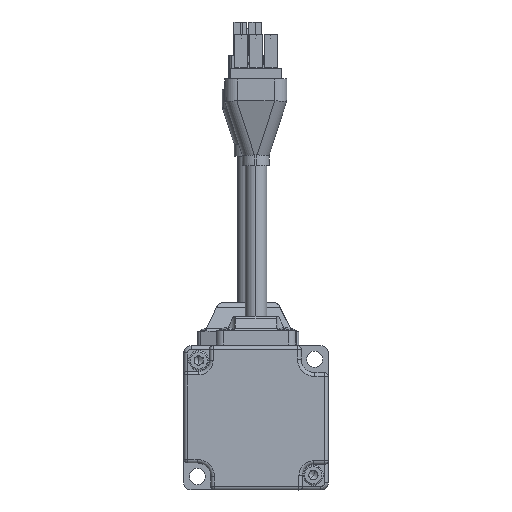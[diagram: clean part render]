
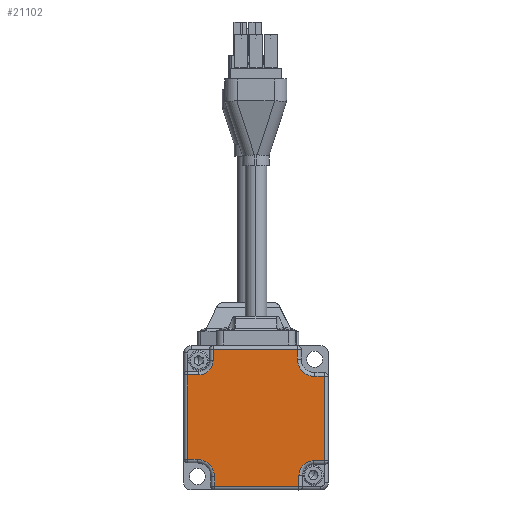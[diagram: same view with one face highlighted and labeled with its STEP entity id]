
A CAD part, front view. The second image highlights one B-rep face of the part: STEP entity #21102.
In plain terms, the highlighted planar face has unit normal (0, 1, 0).
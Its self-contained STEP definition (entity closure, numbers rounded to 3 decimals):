
#19531=DIRECTION('',(0.,0.,-1.));
#19532=VECTOR('',#19531,23.41);
#19533=CARTESIAN_POINT('',(19.,0.,11.5));
#19534=LINE('',#19533,#19532);
#19539=CARTESIAN_POINT('',(15.91,0.,
-15.91));
#19540=DIRECTION('',(0.,-1.,0.));
#19541=DIRECTION('',(0.,0.,1.));
#19542=AXIS2_PLACEMENT_3D('',#19539,#19540,#19541);
#19544=CARTESIAN_POINT('',(16.3,0.,
16.3));
#19545=DIRECTION('',(0.,-1.,0.));
#19546=DIRECTION('',(-1.,0.,0.));
#19547=AXIS2_PLACEMENT_3D('',#19544,#19545,#19546);
#19549=CARTESIAN_POINT('',(-15.91,0.,
15.91));
#19550=DIRECTION('',(0.,-1.,0.));
#19551=DIRECTION('',(0.,0.,-1.));
#19552=AXIS2_PLACEMENT_3D('',#19549,#19550,#19551);
#19554=CARTESIAN_POINT('',(-16.3,0.,
-16.3));
#19555=DIRECTION('',(0.,-1.,0.));
#19556=DIRECTION('',(1.,0.,0.));
#19557=AXIS2_PLACEMENT_3D('',#19554,#19555,#19556);
#19563=DIRECTION('',(0.,0.,1.));
#19564=VECTOR('',#19563,2.7);
#19565=CARTESIAN_POINT('',(-11.5,0.,-19.));
#19566=LINE('',#19565,#19564);
#19586=DIRECTION('',(-1.,0.,0.));
#19587=VECTOR('',#19586,2.7);
#19588=CARTESIAN_POINT('',(-16.3,0.,
-11.5));
#19589=LINE('',#19588,#19587);
#19742=DIRECTION('',(-1.,0.,0.));
#19743=VECTOR('',#19742,3.09);
#19744=CARTESIAN_POINT('',(19.,0.,
-11.91));
#19745=LINE('',#19744,#19743);
#19780=DIRECTION('',(0.,0.,-1.));
#19781=VECTOR('',#19780,3.09);
#19782=CARTESIAN_POINT('',(11.91,0.,-15.91));
#19783=LINE('',#19782,#19781);
#19807=DIRECTION('',(-1.,0.,0.));
#19808=VECTOR('',#19807,23.41);
#19809=CARTESIAN_POINT('',(11.91,0.,
-19.));
#19810=LINE('',#19809,#19808);
#19870=DIRECTION('',(0.,0.,1.));
#19871=VECTOR('',#19870,23.41);
#19872=CARTESIAN_POINT('',(-19.,0.,-11.5));
#19873=LINE('',#19872,#19871);
#19963=DIRECTION('',(1.,0.,0.));
#19964=VECTOR('',#19963,3.09);
#19965=CARTESIAN_POINT('',(-19.,0.,
11.91));
#19966=LINE('',#19965,#19964);
#19971=DIRECTION('',(0.,0.,1.));
#19972=VECTOR('',#19971,3.09);
#19973=CARTESIAN_POINT('',(-11.91,0.,15.91));
#19974=LINE('',#19973,#19972);
#19998=DIRECTION('',(1.,0.,0.));
#19999=VECTOR('',#19998,23.41);
#20000=CARTESIAN_POINT('',(-11.91,0.,
19.));
#20001=LINE('',#20000,#19999);
#20133=DIRECTION('',(0.,0.,-1.));
#20134=VECTOR('',#20133,2.7);
#20135=CARTESIAN_POINT('',(11.5,0.,19.));
#20136=LINE('',#20135,#20134);
#20160=DIRECTION('',(1.,0.,0.));
#20161=VECTOR('',#20160,2.7);
#20162=CARTESIAN_POINT('',(16.3,0.,
11.5));
#20163=LINE('',#20162,#20161);
#20790=CARTESIAN_POINT('',(-11.5,0.,-19.));
#20791=CARTESIAN_POINT('',(-11.5,0.,
-16.3));
#20792=VERTEX_POINT('',#20790);
#20793=VERTEX_POINT('',#20791);
#20794=CARTESIAN_POINT('',(11.91,0.,
-19.));
#20795=VERTEX_POINT('',#20794);
#20796=CARTESIAN_POINT('',(11.91,0.,-15.91));
#20797=VERTEX_POINT('',#20796);
#20798=CARTESIAN_POINT('',(15.91,0.,
-11.91));
#20799=VERTEX_POINT('',#20798);
#20800=CARTESIAN_POINT('',(19.,0.,
-11.91));
#20801=VERTEX_POINT('',#20800);
#20802=CARTESIAN_POINT('',(19.,0.,11.5));
#20803=VERTEX_POINT('',#20802);
#20804=CARTESIAN_POINT('',(16.3,0.,
11.5));
#20805=VERTEX_POINT('',#20804);
#20806=CARTESIAN_POINT('',(11.5,0.,
16.3));
#20807=VERTEX_POINT('',#20806);
#20808=CARTESIAN_POINT('',(11.5,0.,19.));
#20809=VERTEX_POINT('',#20808);
#20810=CARTESIAN_POINT('',(-11.91,0.,
19.));
#20811=VERTEX_POINT('',#20810);
#20812=CARTESIAN_POINT('',(-11.91,0.,15.91));
#20813=VERTEX_POINT('',#20812);
#20814=CARTESIAN_POINT('',(-15.91,0.,
11.91));
#20815=VERTEX_POINT('',#20814);
#20816=CARTESIAN_POINT('',(-19.,0.,
11.91));
#20817=VERTEX_POINT('',#20816);
#20818=CARTESIAN_POINT('',(-19.,0.,-11.5));
#20819=VERTEX_POINT('',#20818);
#20820=CARTESIAN_POINT('',(-16.3,0.,
-11.5));
#20821=VERTEX_POINT('',#20820);
#21064=CARTESIAN_POINT('',(0.,0.,0.));
#21065=DIRECTION('',(0.,1.,0.));
#21066=DIRECTION('',(0.,0.,1.));
#21067=AXIS2_PLACEMENT_3D('',#21064,#21065,#21066);
#21068=PLANE('',#21067);
#21070=ORIENTED_EDGE('',*,*,#21069,.F.);
#21072=ORIENTED_EDGE('',*,*,#21071,.F.);
#21074=ORIENTED_EDGE('',*,*,#21073,.F.);
#21076=ORIENTED_EDGE('',*,*,#21075,.F.);
#21078=ORIENTED_EDGE('',*,*,#21077,.F.);
#21079=ORIENTED_EDGE('',*,*,#21054,.F.);
#21081=ORIENTED_EDGE('',*,*,#21080,.F.);
#21083=ORIENTED_EDGE('',*,*,#21082,.F.);
#21085=ORIENTED_EDGE('',*,*,#21084,.F.);
#21087=ORIENTED_EDGE('',*,*,#21086,.F.);
#21089=ORIENTED_EDGE('',*,*,#21088,.F.);
#21091=ORIENTED_EDGE('',*,*,#21090,.F.);
#21093=ORIENTED_EDGE('',*,*,#21092,.F.);
#21095=ORIENTED_EDGE('',*,*,#21094,.F.);
#21097=ORIENTED_EDGE('',*,*,#21096,.F.);
#21099=ORIENTED_EDGE('',*,*,#21098,.F.);
#21100=EDGE_LOOP('',(#21070,#21072,#21074,#21076,#21078,#21079,#21081,#21083,
#21085,#21087,#21089,#21091,#21093,#21095,#21097,#21099));
#21101=FACE_OUTER_BOUND('',#21100,.F.);
#21102=ADVANCED_FACE('',(#21101),#21068,.T.);
#19543=CIRCLE('',#19542,4.);
#19548=CIRCLE('',#19547,4.8);
#19553=CIRCLE('',#19552,4.);
#19558=CIRCLE('',#19557,4.8);
#21054=EDGE_CURVE('',#20803,#20801,#19534,.T.);
#21069=EDGE_CURVE('',#20792,#20793,#19566,.T.);
#21071=EDGE_CURVE('',#20795,#20792,#19810,.T.);
#21073=EDGE_CURVE('',#20797,#20795,#19783,.T.);
#21075=EDGE_CURVE('',#20799,#20797,#19543,.T.);
#21077=EDGE_CURVE('',#20801,#20799,#19745,.T.);
#21080=EDGE_CURVE('',#20805,#20803,#20163,.T.);
#21082=EDGE_CURVE('',#20807,#20805,#19548,.T.);
#21084=EDGE_CURVE('',#20809,#20807,#20136,.T.);
#21086=EDGE_CURVE('',#20811,#20809,#20001,.T.);
#21088=EDGE_CURVE('',#20813,#20811,#19974,.T.);
#21090=EDGE_CURVE('',#20815,#20813,#19553,.T.);
#21092=EDGE_CURVE('',#20817,#20815,#19966,.T.);
#21094=EDGE_CURVE('',#20819,#20817,#19873,.T.);
#21096=EDGE_CURVE('',#20821,#20819,#19589,.T.);
#21098=EDGE_CURVE('',#20793,#20821,#19558,.T.);
